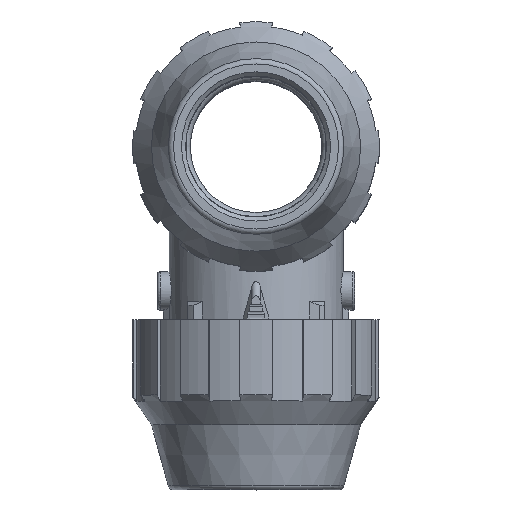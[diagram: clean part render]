
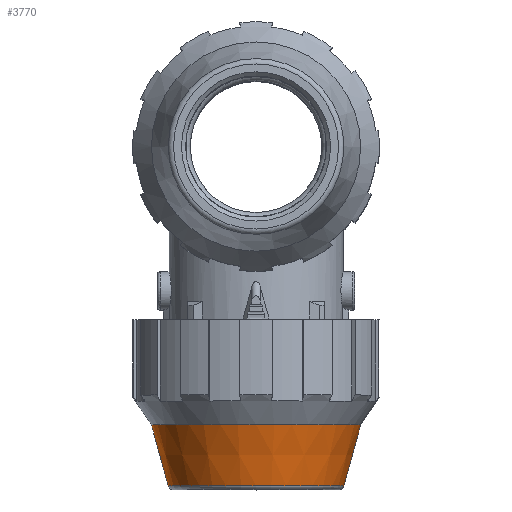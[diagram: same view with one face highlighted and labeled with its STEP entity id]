
A CAD part, top view. The second image highlights one B-rep face of the part: STEP entity #3770.
In plain terms, the highlighted conical face has half-angle 15.392 degrees and reference radius 16.324 mm.
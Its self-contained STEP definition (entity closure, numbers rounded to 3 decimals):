
#3770 = ADVANCED_FACE( '', ( #7696, #7697 ), #7698, .T. );
#7696 = FACE_OUTER_BOUND( '', #13655, .T. );
#7697 = FACE_BOUND( '', #13656, .T. );
#7698 = CONICAL_SURFACE( '', #13657, 16.324, 0.269 );
#13655 = EDGE_LOOP( '', ( #24601 ) );
#13656 = EDGE_LOOP( '', ( #24602 ) );
#13657 = AXIS2_PLACEMENT_3D( '', #24603, #24604, #24605 );
#24601 = ORIENTED_EDGE( '', *, *, #27316, .T. );
#24602 = ORIENTED_EDGE( '', *, *, #29980, .F. );
#24603 = CARTESIAN_POINT( '', ( 0., -60.661, -50.813 ) );
#24604 = DIRECTION( '', ( 0., 1., 0. ) );
#24605 = DIRECTION( '', ( -1., 0., 0. ) );
#27316 = EDGE_CURVE( '', #33007, #33007, #33008, .T. );
#29980 = EDGE_CURVE( '', #36918, #36918, #36919, .T. );
#33007 = VERTEX_POINT( '', #43162 );
#33008 = CIRCLE( '', #43163, 19.077 );
#36918 = VERTEX_POINT( '', #53791 );
#36919 = CIRCLE( '', #53792, 16.018 );
#43162 = CARTESIAN_POINT( '', ( -19.077, -50.66, -50.813 ) );
#43163 = AXIS2_PLACEMENT_3D( '', #57372, #57373, #57374 );
#53791 = CARTESIAN_POINT( '', ( 16.018, -61.772, -50.813 ) );
#53792 = AXIS2_PLACEMENT_3D( '', #60279, #60280, #60281 );
#57372 = CARTESIAN_POINT( '', ( 0., -50.66, -50.813 ) );
#57373 = DIRECTION( '', ( 0., -1., 0. ) );
#57374 = DIRECTION( '', ( -1., 0., 0. ) );
#60279 = CARTESIAN_POINT( '', ( 0., -61.772, -50.813 ) );
#60280 = DIRECTION( '', ( 0., -1., 0. ) );
#60281 = DIRECTION( '', ( 1., 0., 0. ) );
